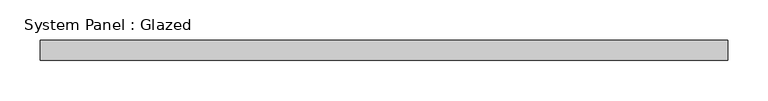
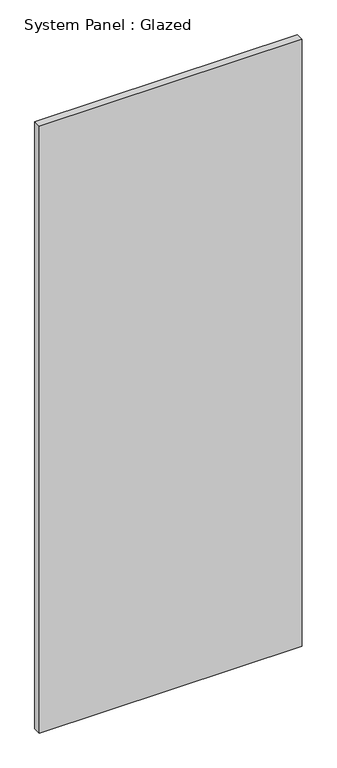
"""IFC4 building model written with IfcOpenShell, lengths in millimetres: plate geometry, System Panel : Glazed."""

import ifcopenshell
import ifcopenshell.guid

model = None  # the IFC model being written
_history = None  # IfcOwnerHistory: only IFC2X3 demands one
_inside = {}  # id of a spatial element -> (the spatial element, [elements in it])
_under = {}  # id of a project, library or spatial element -> (it, [spatial elements below it])
_declared = {}  # id of a project -> (the project, [libraries it declares])
_typed = {}  # id of a type object -> (the type object, [elements of that type])
_made_of = {}  # id of a material, layer set ... -> (it, [elements and type objects made of it])


def new_model(schema):
    """Start an empty IFC model of exactly this schema.

    Asked for "IFC4X3", IfcOpenShell would pick the latest addendum, in which some entities
    have other attributes; the version numbers below select the first issue.
    IFC2X3 requires an IfcOwnerHistory on every rooted entity: one is made here for all.
    """
    global model, _history
    if schema == "IFC4X3":
        model = ifcopenshell.file(schema_version=(4, 3, 0, 0))
    else:
        model = ifcopenshell.file(schema=schema)
    _inside.clear()
    _under.clear()
    _declared.clear()
    _typed.clear()
    _made_of.clear()
    _history = None
    if model.schema == "IFC2X3":
        org = make("IfcOrganization", Name="unknown")
        user = make(
            "IfcPersonAndOrganization",
            ThePerson=make("IfcPerson", FamilyName="unknown"),
            TheOrganization=org,
        )
        app = make(
            "IfcApplication",
            ApplicationDeveloper=org,
            Version="unknown",
            ApplicationFullName="unknown",
            ApplicationIdentifier="unknown",
        )
        _history = make(
            "IfcOwnerHistory",
            OwningUser=user,
            OwningApplication=app,
            ChangeAction="ADDED",
            CreationDate=0,
        )
    return model


def make(cls, **values):
    """One entity of the class cls with the attributes given. An attribute that is None is left unset."""
    return model.create_entity(
        cls, **{name: value for name, value in values.items() if value is not None}
    )


def rooted(cls, **values):
    """An entity with a GlobalId (a new one), such as an element, a storey or a relation."""
    return make(cls, GlobalId=ifcopenshell.guid.new(), OwnerHistory=_history, **values)


def si_unit(unit_type, name, prefix=None):
    """IfcSIUnit, for example si_unit("LENGTHUNIT", "METRE", prefix="MILLI")."""
    return make("IfcSIUnit", UnitType=unit_type, Prefix=prefix, Name=name)


def assignment(units):
    """IfcUnitAssignment: the units of a project."""
    return None if units is None else make("IfcUnitAssignment", Units=units)


def point(xyz):
    """IfcCartesianPoint."""
    return None if xyz is None else make("IfcCartesianPoint", Coordinates=xyz)


def direction(xyz):
    """IfcDirection."""
    return None if xyz is None else make("IfcDirection", DirectionRatios=xyz)


def frame(location, z_axis=None, x_axis=None):
    """IfcAxis2Placement3D, a coordinate frame: its origin and axes. An axis left out is left unset."""
    return make(
        "IfcAxis2Placement3D",
        Location=point(location),
        Axis=direction(z_axis),
        RefDirection=direction(x_axis),
    )


def origin():
    """The frame at (0, 0, 0) with its axes left unset."""
    return frame((0.0, 0.0, 0.0))


def origin_with_axes():
    """The frame at (0, 0, 0) with the z axis (0, 0, 1) and the x axis (1, 0, 0) written out."""
    return frame((0.0, 0.0, 0.0), z_axis=(0.0, 0.0, 1.0), x_axis=(1.0, 0.0, 0.0))


def place(relative_to, where):
    """IfcLocalPlacement: puts the frame where relative to a parent placement (None: the world)."""
    return make(
        "IfcLocalPlacement", PlacementRelTo=relative_to, RelativePlacement=where
    )


def context(
    kind, dimensions, precision=None, world=None, true_north=None, identifier=None
):
    """IfcGeometricRepresentationContext, for example the 3D "Model" context."""
    return make(
        "IfcGeometricRepresentationContext",
        ContextIdentifier=identifier,
        ContextType=kind,
        CoordinateSpaceDimension=dimensions,
        Precision=precision,
        WorldCoordinateSystem=world,
        TrueNorth=true_north,
    )


def project(units=None, contexts=None):
    """IfcProject with its units and contexts."""
    return rooted(
        "IfcProject",
        Name="project",
        RepresentationContexts=contexts,
        UnitsInContext=assignment(units),
    )


def spatial(cls, under=None, at=None, **own):
    """A site, building, storey or space (cls), placed at a placement, below another one or the project."""
    s = rooted(cls, ObjectPlacement=at, **own)
    if under is not None:
        _under.setdefault(under.id(), (under, []))[1].append(s)
    return s


def polyline(points):
    """IfcPolyline through the points."""
    return make("IfcPolyline", Points=[point(p) for p in points])


def outline(outer, holes=None, kind="AREA"):
    """IfcArbitraryClosedProfileDef: a profile drawn as a closed curve; with holes, ...WithVoids."""
    if holes is None:
        return make("IfcArbitraryClosedProfileDef", ProfileType=kind, OuterCurve=outer)
    return make(
        "IfcArbitraryProfileDefWithVoids",
        ProfileType=kind,
        OuterCurve=outer,
        InnerCurves=holes,
    )


def extrude(swept, where, along, depth):
    """IfcExtrudedAreaSolid: the profile swept, set in the frame where, extruded along a direction by depth."""
    return make(
        "IfcExtrudedAreaSolid",
        SweptArea=swept,
        Position=where,
        ExtrudedDirection=direction(along),
        Depth=depth,
    )


def shape(context_of_items, identifier, shape_type, items):
    """IfcShapeRepresentation: the items that make up one representation, for example the "Body"."""
    return make(
        "IfcShapeRepresentation",
        ContextOfItems=context_of_items,
        RepresentationIdentifier=identifier,
        RepresentationType=shape_type,
        Items=items,
    )


def source(mapping_origin, context_of_items, identifier, shape_type, items):
    """IfcRepresentationMap: a shape defined once, which mapped items show again and again."""
    return make(
        "IfcRepresentationMap",
        MappingOrigin=mapping_origin,
        MappedRepresentation=shape(context_of_items, identifier, shape_type, items),
    )


def transform(
    local_origin,
    x_axis=None,
    y_axis=None,
    z_axis=None,
    scale=None,
    scale2=None,
    scale3=None,
    uniform=True,
):
    """IfcCartesianTransformationOperator3D, or its non-uniform kind. x_axis, y_axis, z_axis: its Axis1, 2, 3."""
    if uniform:
        return make(
            "IfcCartesianTransformationOperator3D",
            Axis1=direction(x_axis),
            Axis2=direction(y_axis),
            LocalOrigin=point(local_origin),
            Scale=scale,
            Axis3=direction(z_axis),
        )
    return make(
        "IfcCartesianTransformationOperator3DnonUniform",
        Axis1=direction(x_axis),
        Axis2=direction(y_axis),
        LocalOrigin=point(local_origin),
        Scale=scale,
        Axis3=direction(z_axis),
        Scale2=scale2,
        Scale3=scale3,
    )


def mapped(mapping_source, mapping_target):
    """IfcMappedItem: shows the shape of a source again, moved by a transform."""
    return make(
        "IfcMappedItem", MappingSource=mapping_source, MappingTarget=mapping_target
    )


def made_of(thing, what):
    """Note that an element or type object is made of a material, layer set ...; save() writes the relation."""
    if what is not None:
        _made_of.setdefault(what.id(), (what, []))[1].append(thing)
    return thing


def element(
    cls,
    number,
    at=None,
    inside=None,
    cuts=None,
    type_object=None,
    material=None,
    context=None,
    identifier="Body",
    shape_type=None,
    held_by="IfcProductDefinitionShape",
    body=None,
    shapes=None,
    **own,
):
    """One element of the class cls, such as IfcWall. Its Tag is "e" and its number.

    at: its placement. inside: the storey or other place that contains it. cuts: it is an
    opening in that element (IfcRelVoidsElement). A single representation is given by context,
    identifier, shape_type and body (its items); several are given by shapes. held_by: the class
    of the entity that holds the representations. save() writes the other relations.
    """
    e = rooted(cls, Tag="e%d" % number, ObjectPlacement=at, **own)
    if body is not None:
        shapes = [shape(context, identifier, shape_type, body)]
    if shapes is not None:
        e.Representation = make(held_by, Representations=shapes)
    if inside is not None:
        _inside.setdefault(inside.id(), (inside, []))[1].append(e)
    if cuts is not None:
        rooted(
            "IfcRelVoidsElement", RelatingBuildingElement=cuts, RelatedOpeningElement=e
        )
    if type_object is not None:
        _typed.setdefault(type_object.id(), (type_object, []))[1].append(e)
    return made_of(e, material)


def aggregate(whole, parts):
    """IfcRelAggregates: a whole, such as a stair, and the parts it consists of."""
    return rooted("IfcRelAggregates", RelatingObject=whole, RelatedObjects=parts)


def save(model, path):
    """Write the relations noted so far, then the file.

    IfcRelAggregates (storeys below a building ...), IfcRelContainedInSpatialStructure (elements
    in a storey), IfcRelDefinesByType, IfcRelAssociatesMaterial and IfcRelDeclares: one each for
    every whole, place, type object, material and project.
    """
    for whole, parts in _under.values():
        aggregate(whole, parts)
    for where, things in _inside.values():
        rooted(
            "IfcRelContainedInSpatialStructure",
            RelatedElements=things,
            RelatingStructure=where,
        )
    for kind, things in _typed.values():
        rooted("IfcRelDefinesByType", RelatedObjects=things, RelatingType=kind)
    for what, things in _made_of.values():
        rooted("IfcRelAssociatesMaterial", RelatedObjects=things, RelatingMaterial=what)
    for by, libraries in _declared.values():
        rooted("IfcRelDeclares", RelatingContext=by, RelatedDefinitions=libraries)
    model.write(path)


def system_panel_glazed_eecf021d(model_context):
    return source(origin(), model_context, "Body", "SweptSolid", [
        extrude(outline(polyline([(429.614913, 19.05), (-429.614913, 19.05), (-429.614913, 44.45), (429.614913, 44.45), (429.614913, 19.05)])), origin_with_axes(), (0.0, 0.0, 1.0), 2095.5),
    ])


if __name__ == "__main__":
    model = new_model("IFC4")
    model_context = context("Model", 3, world=origin())
    ifc_project = project(units=[si_unit("LENGTHUNIT", "METRE", prefix="MILLI")], contexts=[model_context])
    site = spatial("IfcSite", under=ifc_project)
    building = spatial("IfcBuilding", under=site)
    placement = place(None, origin())
    system_panel_glazed_shape = system_panel_glazed_eecf021d(model_context)
    element("IfcPlate", 1, ObjectType="System Panel : Glazed", at=placement, inside=building, context=model_context, shape_type="MappedRepresentation", body=[
        mapped(system_panel_glazed_shape, transform((0.0, 0.0, 0.0), x_axis=(1.0, 0.0, 0.0), y_axis=(0.0, 1.0, 0.0), z_axis=(0.0, 0.0, 1.0))),
    ])
    save(model, "model.ifc")
